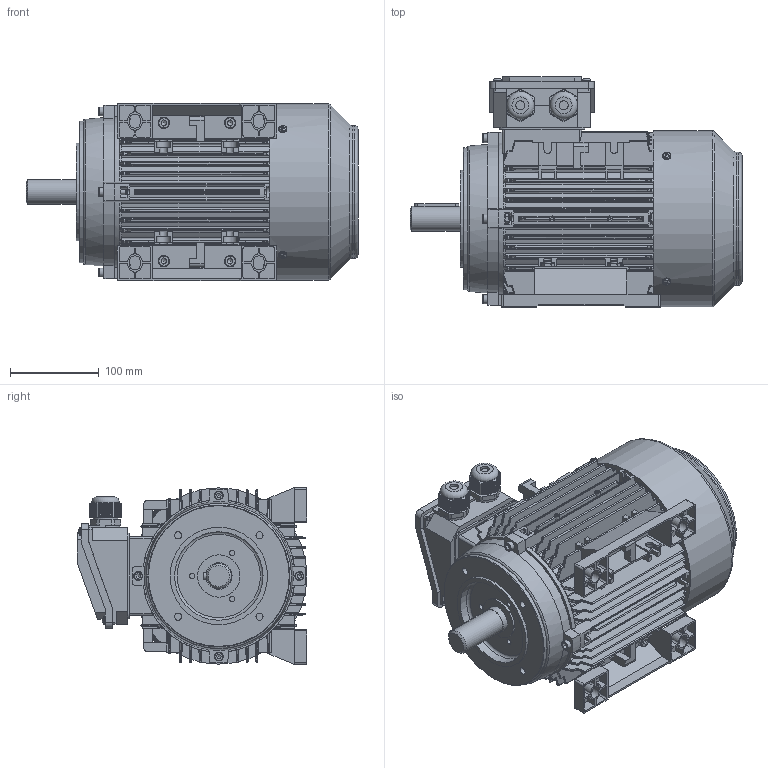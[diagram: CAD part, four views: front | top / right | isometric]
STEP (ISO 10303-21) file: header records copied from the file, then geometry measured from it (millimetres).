
FILE_DESCRIPTION(/* description */ ('02-IP55-Aluminium-IE1_IE2_IE3-100-B34-top'),/* implementation_level */ '2;1');
FILE_NAME(/* name */ 'H:\BESTANDEN\121 - OMEC\1603 - TA serie\1603 - Gereed\02-IP55-Aluminium-IE1_IE2_IE3-100-B34-top.stp',/* time_stamp */ '2016-06-06T13:03:37+02:00',/* author */ ('Freek'),/* organization */ (''),/* preprocessor_version */ 'ST-DEVELOPER v15.6',/* originating_system */ 'Autodesk Inventor 2015',/* authorisation */ '');
FILE_SCHEMA (('AUTOMOTIVE_DESIGN { 1 0 10303 214 3 1 1 }'));
Products named in the file (1): 1603-125
Bounding box: 375 x 259.64 x 200 mm (x, y, z)
Volume: 8749371.8 mm3; surface area: 741336 mm2
Topology: 3 solids, 18 shells, 3489 faces, 9092 edges, 5795 vertices
Faces by surface type: plane 1924, cylinder 716, bspline 387, cone 248, torus 154, sphere 60
Full cylindrical faces by diameter (mm): 2 x1, 3 x4, 4 x1, 4.567 x5, 5 x14, 6 x9, 6.5 x4, 8 x12, 8.5 x4, 10 x7, 13 x4, 23 x2, 28 x3, 30 x1, 31 x2, 47.8 x2, 100 x1, 110 x1, 150 x1, 160 x1, 199 x1
Entity records: 122240 total; most frequent: CARTESIAN_POINT 37320, ORIENTED_EDGE 17752, DIRECTION 15551, EDGE_CURVE 8868, VERTEX_POINT 5741, AXIS2_PLACEMENT_3D 5268, LINE 5015, VECTOR 5015
